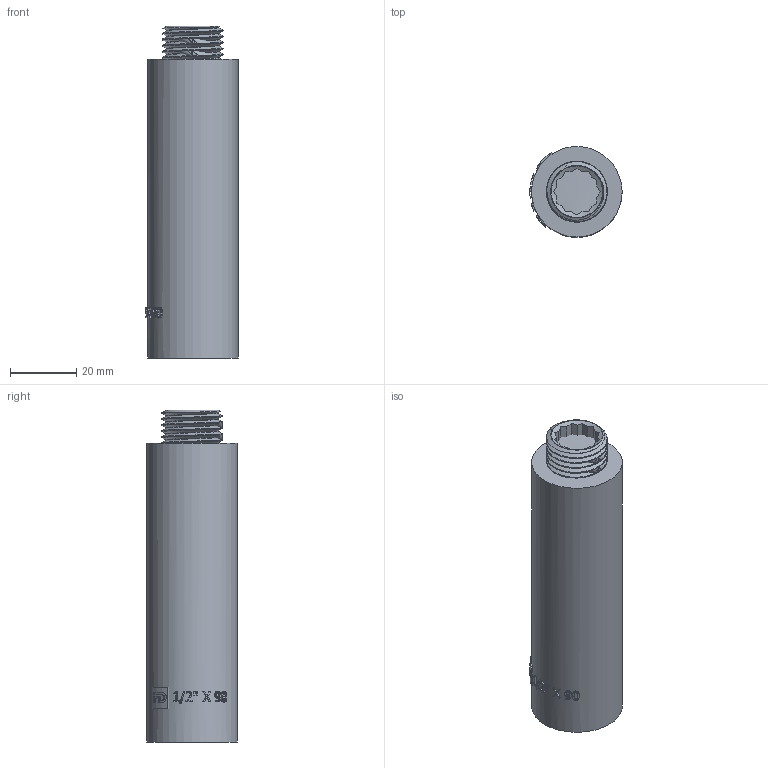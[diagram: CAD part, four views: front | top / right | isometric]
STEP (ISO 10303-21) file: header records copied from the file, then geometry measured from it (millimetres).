
FILE_DESCRIPTION(/* description */ (''),/* implementation_level */ '2;1');
FILE_NAME(/* name */ 'C:\Users\Doom\Desktop\Фадотех\Резьба\UD90 18.03.2020\UD90 18.03.2020.stp',/* time_stamp */ '2022-01-22T12:11:16+02:00',/* author */ ('Doom'),/* organization */ (''),/* preprocessor_version */ 'ST-DEVELOPER v18',/* originating_system */ 'Autodesk Inventor 2020',/* authorisation */ '');
FILE_SCHEMA (('AUTOMOTIVE_DESIGN { 1 0 10303 214 3 1 1 }'));
Length unit declared in the file: millimetre
Products named in the file (1): UD90 18.03.2020
Bounding box: 27.8 x 27.3 x 100 mm (x, y, z)
Volume: 32635.9 mm3; surface area: 22012.3 mm2
Topology: 3 solids, 3 shells, 203 faces, 549 edges, 366 vertices
Faces by surface type: plane 78, bspline 74, cylinder 48, cone 3
Full cylindrical faces by diameter (mm): 15.649 x2, 17.107 x1, 18.26 x18, 18.34 x6, 20.95 x2, 21.5 x1, 27.3 x1
Entity records: 18942 total; most frequent: CARTESIAN_POINT 14467, ORIENTED_EDGE 1090, DIRECTION 644, EDGE_CURVE 545, VERTEX_POINT 364, EDGE_LOOP 225, AXIS2_PLACEMENT_3D 223, B_SPLINE_CURVE_WITH_KNOTS 204
